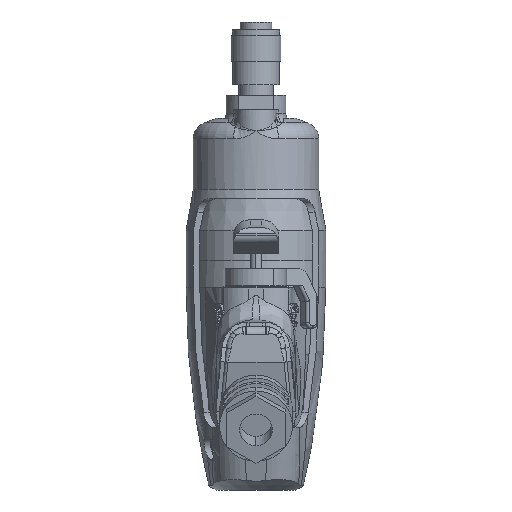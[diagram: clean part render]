
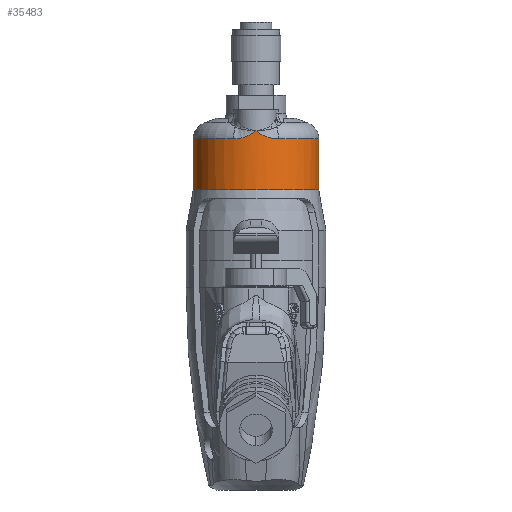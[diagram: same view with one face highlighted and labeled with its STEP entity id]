
A CAD part, front view. The second image highlights one B-rep face of the part: STEP entity #35483.
In plain terms, the highlighted cylindrical face has radius 22 mm (diameter 44 mm), a partial arc.
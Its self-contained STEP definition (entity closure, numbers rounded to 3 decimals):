
#666 = CARTESIAN_POINT ( 'NONE',  ( 7.197, -20.802, -27.259 ) ) ;
#872 = CARTESIAN_POINT ( 'NONE',  ( 4.451, -21.556, -26.784 ) ) ;
#1128 = CARTESIAN_POINT ( 'NONE',  ( -7.196, -20.802, -27.259 ) ) ;
#1751 = CARTESIAN_POINT ( 'NONE',  ( 0., 0., -27.259 ) ) ;
#2804 = VECTOR ( 'NONE', #8294, 1000. ) ;
#3100 = B_SPLINE_CURVE_WITH_KNOTS ( 'NONE', 3,
 ( #14694, #666, #56794, #28804, #872, #33498, #5532, #38177, #10181, #42872 ),
 .UNSPECIFIED., .F., .F.,
 ( 4, 2, 2, 2, 4 ),
 ( 0., 0.002, 0.004, 0.007, 0.009 ),
 .UNSPECIFIED. ) ;
#3295 = CIRCLE ( 'NONE', #28058, 22. ) ;
#4776 = CARTESIAN_POINT ( 'NONE',  ( -0.579, -22., -24.896 ) ) ;
#5532 = CARTESIAN_POINT ( 'NONE',  ( 2.447, -21.873, -26.007 ) ) ;
#6226 = DIRECTION ( 'NONE',  ( 0., 0., 1. ) ) ;
#6427 = DIRECTION ( 'NONE',  ( 1., 0., 0. ) ) ;
#6568 = CARTESIAN_POINT ( 'NONE',  ( 0., -22., -24.458 ) ) ;
#7536 = EDGE_CURVE ( 'NONE', #44107, #31388, #3295, .T. ) ;
#8294 = DIRECTION ( 'NONE',  ( 0., 0., 1. ) ) ;
#10181 = CARTESIAN_POINT ( 'NONE',  ( 0.578, -22., -24.895 ) ) ;
#12643 = AXIS2_PLACEMENT_3D ( 'NONE', #24840, #57528, #29534 ) ;
#12883 = DIRECTION ( 'NONE',  ( 0., 0., 1. ) ) ;
#13196 = CARTESIAN_POINT ( 'NONE',  ( -22., 0., -12. ) ) ;
#14122 = CARTESIAN_POINT ( 'NONE',  ( -2.132, -21.899, -25.832 ) ) ;
#14694 = CARTESIAN_POINT ( 'NONE',  ( 7.875, -20.542, -27.259 ) ) ;
#15914 = ORIENTED_EDGE ( 'NONE', *, *, #7536, .T. ) ;
#15956 = DIRECTION ( 'NONE',  ( 0., 0., 1. ) ) ;
#16603 = ORIENTED_EDGE ( 'NONE', *, *, #33594, .F. ) ;
#16642 = LINE ( 'NONE', #13196, #2804 ) ;
#19654 = CARTESIAN_POINT ( 'NONE',  ( -3.109, -21.782, -26.291 ) ) ;
#20298 = ORIENTED_EDGE ( 'NONE', *, *, #31001, .T. ) ;
#21580 = VERTEX_POINT ( 'NONE', #35993 ) ;
#24360 = CARTESIAN_POINT ( 'NONE',  ( -4.446, -21.557, -26.782 ) ) ;
#24722 = AXIS2_PLACEMENT_3D ( 'NONE', #36367, #12883, #27004 ) ;
#24840 = CARTESIAN_POINT ( 'NONE',  ( 0., 0., -27.259 ) ) ;
#26196 = EDGE_CURVE ( 'NONE', #29620, #21580, #56275, .T. ) ;
#27004 = DIRECTION ( 'NONE',  ( 1., 0., 0. ) ) ;
#27530 = ORIENTED_EDGE ( 'NONE', *, *, #42945, .T. ) ;
#27901 = VERTEX_POINT ( 'NONE', #53129 ) ;
#27905 = VERTEX_POINT ( 'NONE', #6568 ) ;
#28058 = AXIS2_PLACEMENT_3D ( 'NONE', #34196, #6226, #38883 ) ;
#28086 = CIRCLE ( 'NONE', #12643, 22. ) ;
#28804 = CARTESIAN_POINT ( 'NONE',  ( 5.135, -21.404, -26.961 ) ) ;
#29085 = CARTESIAN_POINT ( 'NONE',  ( -6.51, -21.027, -27.199 ) ) ;
#29534 = DIRECTION ( 'NONE',  ( 1., 0., 0. ) ) ;
#29620 = VERTEX_POINT ( 'NONE', #59020 ) ;
#31001 = EDGE_CURVE ( 'NONE', #27905, #29620, #41255, .T. ) ;
#31388 = VERTEX_POINT ( 'NONE', #41872 ) ;
#33270 = ORIENTED_EDGE ( 'NONE', *, *, #26196, .T. ) ;
#33498 = CARTESIAN_POINT ( 'NONE',  ( 3.102, -21.791, -26.305 ) ) ;
#33594 = EDGE_CURVE ( 'NONE', #44107, #21580, #16642, .T. ) ;
#33770 = CARTESIAN_POINT ( 'NONE',  ( -7.875, -20.542, -27.259 ) ) ;
#34196 = CARTESIAN_POINT ( 'NONE',  ( 0., 0., -45.147 ) ) ;
#34224 = EDGE_LOOP ( 'NONE', ( #16603, #15914, #27530, #34276, #43508, #20298, #33270 ) ) ;
#34276 = ORIENTED_EDGE ( 'NONE', *, *, #37698, .T. ) ;
#34401 = DIRECTION ( 'NONE',  ( 0., 0., -1. ) ) ;
#35483 = ADVANCED_FACE ( 'NONE', ( #38428 ), #49427, .T. ) ;
#35993 = CARTESIAN_POINT ( 'NONE',  ( -22., 0., -27.259 ) ) ;
#36367 = CARTESIAN_POINT ( 'NONE',  ( 0., 0., -12. ) ) ;
#37698 = EDGE_CURVE ( 'NONE', #27901, #47044, #28086, .T. ) ;
#38177 = CARTESIAN_POINT ( 'NONE',  ( 1.183, -21.977, -25.302 ) ) ;
#38428 = FACE_OUTER_BOUND ( 'NONE', #34224, .T. ) ;
#38883 = DIRECTION ( 'NONE',  ( -1., 0., 0. ) ) ;
#40303 = VECTOR ( 'NONE', #15956, 1000. ) ;
#41255 = B_SPLINE_CURVE_WITH_KNOTS ( 'NONE', 3,
 ( #41919, #4776, #42121, #14122, #46828, #19654, #52337, #24360, #57080, #29085, #1128, #33770 ),
 .UNSPECIFIED., .F., .F.,
 ( 4, 2, 2, 2, 2, 4 ),
 ( 0., 0.002, 0.003, 0.004, 0.007, 0.009 ),
 .UNSPECIFIED. ) ;
#41872 = CARTESIAN_POINT ( 'NONE',  ( 22., 0., -45.147 ) ) ;
#41919 = CARTESIAN_POINT ( 'NONE',  ( 0., -22., -24.458 ) ) ;
#42121 = CARTESIAN_POINT ( 'NONE',  ( -1.184, -21.977, -25.302 ) ) ;
#42872 = CARTESIAN_POINT ( 'NONE',  ( 0., -22., -24.458 ) ) ;
#42945 = EDGE_CURVE ( 'NONE', #31388, #27901, #52705, .T. ) ;
#43508 = ORIENTED_EDGE ( 'NONE', *, *, #54928, .T. ) ;
#43595 = CARTESIAN_POINT ( 'NONE',  ( -22., 0., -45.147 ) ) ;
#44107 = VERTEX_POINT ( 'NONE', #43595 ) ;
#46828 = CARTESIAN_POINT ( 'NONE',  ( -2.455, -21.865, -25.995 ) ) ;
#47044 = VERTEX_POINT ( 'NONE', #47419 ) ;
#47419 = CARTESIAN_POINT ( 'NONE',  ( 7.875, -20.542, -27.259 ) ) ;
#48659 = CARTESIAN_POINT ( 'NONE',  ( 22., 0., -12. ) ) ;
#49427 = CYLINDRICAL_SURFACE ( 'NONE', #24722, 22. ) ;
#52337 = CARTESIAN_POINT ( 'NONE',  ( -3.44, -21.732, -26.425 ) ) ;
#52705 = LINE ( 'NONE', #48659, #40303 ) ;
#53129 = CARTESIAN_POINT ( 'NONE',  ( 22., 0., -27.259 ) ) ;
#54928 = EDGE_CURVE ( 'NONE', #47044, #27905, #3100, .T. ) ;
#56275 = CIRCLE ( 'NONE', #59816, 22. ) ;
#56794 = CARTESIAN_POINT ( 'NONE',  ( 6.505, -21.028, -27.199 ) ) ;
#57080 = CARTESIAN_POINT ( 'NONE',  ( -5.138, -21.403, -26.962 ) ) ;
#57528 = DIRECTION ( 'NONE',  ( 0., 0., -1. ) ) ;
#59020 = CARTESIAN_POINT ( 'NONE',  ( -7.875, -20.542, -27.259 ) ) ;
#59816 = AXIS2_PLACEMENT_3D ( 'NONE', #1751, #34401, #6427 ) ;
